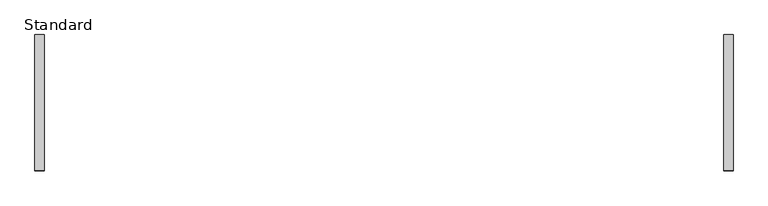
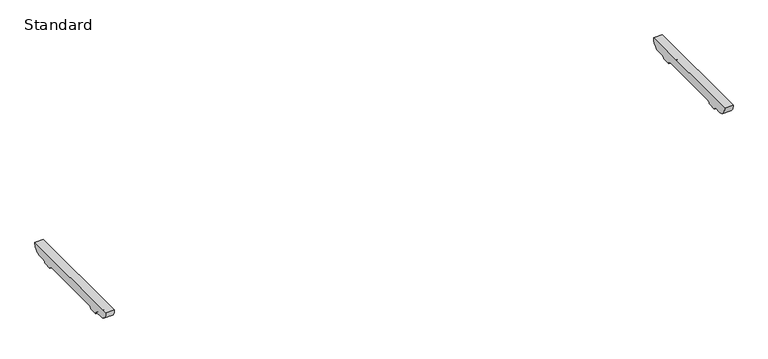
"""IFC4 building model written with IfcOpenShell, lengths in millimetres: furniture geometry, BDG_BossDesign_Tbls_AgentTables4Legs_Nested : Standard."""

from ifc_helpers import new_model, si_unit, point, frame, frame_2d, origin, place, context, project, spatial, polyline, circle_curve, trimmed, segment, composite_curve, outline, extrude, source, transform, mapped, element, save


def standard_066c3617(model_context):
    return source(origin(), model_context, "Body", "SweptSolid", [
        extrude(outline(composite_curve([segment(polyline([(280.5450184, 672.0), (242.7000122, 672.0)]), True, "CONTINUOUS"), segment(trimmed(circle_curve(frame_2d((242.7000122, 660.0)), 12.0), [point((242.7000122, 672.0))], [point((230.7000122, 660.0))], True, "CARTESIAN"), True, "CONTINUOUS"), segment(polyline([(230.7000122, 660.0), (185.7000122, 660.0)]), True, "CONTINUOUS"), segment(trimmed(circle_curve(frame_2d((173.7000122, 660.0)), 12.0), [point((185.7000122, 660.0))], [point((173.7000122, 672.0))], True, "CARTESIAN"), True, "CONTINUOUS"), segment(polyline([(173.7000122, 672.0), (-173.7000122, 672.0)]), True, "CONTINUOUS"), segment(trimmed(circle_curve(frame_2d((-173.7000122, 660.0)), 12.0), [point((-173.7000122, 672.0))], [point((-185.7000122, 660.0))], True, "CARTESIAN"), True, "CONTINUOUS"), segment(polyline([(-185.7000122, 660.0), (-230.7000122, 660.0)]), True, "CONTINUOUS"), segment(trimmed(circle_curve(frame_2d((-242.7000122, 660.0)), 12.0), [point((-230.7000122, 660.0))], [point((-242.7000122, 672.0))], True, "CARTESIAN"), True, "CONTINUOUS"), segment(polyline([(-242.7000122, 672.0), (-280.5450184, 672.0)]), True, "CONTINUOUS"), segment(trimmed(circle_curve(frame_2d((-278.2220439, 716.5514119)), 44.6119324), [point((-280.5450184, 672.0))], [point((-322.5, 722.0))], False, "CARTESIAN"), True, "CONTINUOUS"), segment(polyline([(-322.5, 722.0), (322.5, 722.0)]), True, "CONTINUOUS"), segment(trimmed(circle_curve(frame_2d((278.2220439, 716.5514119)), 44.6119324), [point((322.5, 722.0))], [point((280.5450184, 672.0))], False, "CARTESIAN"), True, "CONTINUOUS")], self_intersect=False)), frame((1605.0, 0.0, 0.0), z_axis=(1.0, 0.0, 0.0), x_axis=(0.0, 1.0, 0.0)), (0.0, 0.0, 1.0), 45.0),
        extrude(outline(composite_curve([segment(polyline([(280.5450184, 672.0), (242.7000122, 672.0)]), True, "CONTINUOUS"), segment(trimmed(circle_curve(frame_2d((242.7000122, 660.0)), 12.0), [point((242.7000122, 672.0))], [point((230.7000122, 660.0))], True, "CARTESIAN"), True, "CONTINUOUS"), segment(polyline([(230.7000122, 660.0), (185.7000122, 660.0)]), True, "CONTINUOUS"), segment(trimmed(circle_curve(frame_2d((173.7000122, 660.0)), 12.0), [point((185.7000122, 660.0))], [point((173.7000122, 672.0))], True, "CARTESIAN"), True, "CONTINUOUS"), segment(polyline([(173.7000122, 672.0), (-173.7000122, 672.0)]), True, "CONTINUOUS"), segment(trimmed(circle_curve(frame_2d((-173.7000122, 660.0)), 12.0), [point((-173.7000122, 672.0))], [point((-185.7000122, 660.0))], True, "CARTESIAN"), True, "CONTINUOUS"), segment(polyline([(-185.7000122, 660.0), (-230.7000122, 660.0)]), True, "CONTINUOUS"), segment(trimmed(circle_curve(frame_2d((-242.7000122, 660.0)), 12.0), [point((-230.7000122, 660.0))], [point((-242.7000122, 672.0))], True, "CARTESIAN"), True, "CONTINUOUS"), segment(polyline([(-242.7000122, 672.0), (-280.5450184, 672.0)]), True, "CONTINUOUS"), segment(trimmed(circle_curve(frame_2d((-278.2220439, 716.5514119)), 44.6119324), [point((-280.5450184, 672.0))], [point((-322.5, 722.0))], False, "CARTESIAN"), True, "CONTINUOUS"), segment(polyline([(-322.5, 722.0), (322.5, 722.0)]), True, "CONTINUOUS"), segment(trimmed(circle_curve(frame_2d((278.2220439, 716.5514119)), 44.6119324), [point((322.5, 722.0))], [point((280.5450184, 672.0))], False, "CARTESIAN"), True, "CONTINUOUS")], self_intersect=False)), frame((-1650.0, 0.0, 0.0), z_axis=(1.0, 0.0, 0.0), x_axis=(0.0, 1.0, 0.0)), (0.0, 0.0, 1.0), 45.0),
    ])


if __name__ == "__main__":
    model = new_model("IFC4")
    model_context = context("Model", 3, world=origin())
    ifc_project = project(units=[si_unit("LENGTHUNIT", "METRE", prefix="MILLI")], contexts=[model_context])
    site = spatial("IfcSite", under=ifc_project)
    building = spatial("IfcBuilding", under=site)
    placement = place(None, origin())
    standard_shape = standard_066c3617(model_context)
    element("IfcFurniture", 1, ObjectType="BDG_BossDesign_Tbls_AgentTables4Legs_Nested : Standard", at=placement, inside=building, context=model_context, shape_type="MappedRepresentation", body=[
        mapped(standard_shape, transform((0.0, 0.0, 0.0), x_axis=(1.0, 0.0, 0.0), y_axis=(0.0, 1.0, 0.0), z_axis=(0.0, 0.0, 1.0))),
    ])
    save(model, "model.ifc")
